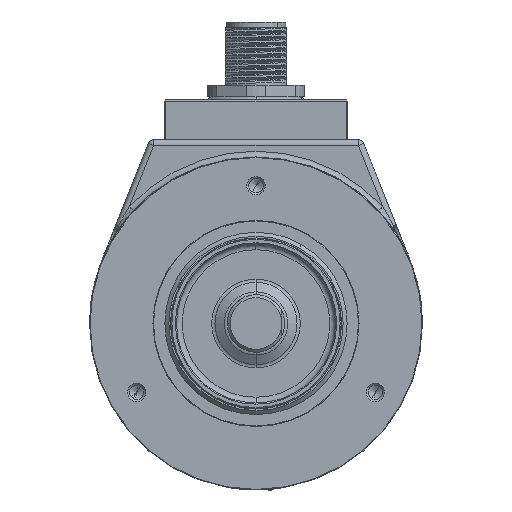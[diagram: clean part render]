
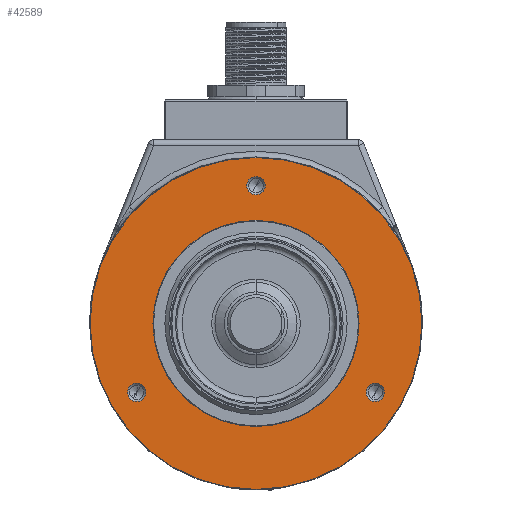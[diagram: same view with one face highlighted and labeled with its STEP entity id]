
A CAD part, front view. The second image highlights one B-rep face of the part: STEP entity #42589.
In plain terms, the highlighted planar face has unit normal (0, -1, 0).
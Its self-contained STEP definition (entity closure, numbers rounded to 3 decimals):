
#141 = ORIENTED_EDGE ( 'NONE', *, *, #28396, .F. ) ;
#307 = DIRECTION ( 'NONE',  ( -0.5, 0., -0.866 ) ) ;
#583 = DIRECTION ( 'NONE',  ( -0.5, 0., -0.866 ) ) ;
#789 = PLANE ( 'NONE',  #1021 ) ;
#918 = AXIS2_PLACEMENT_3D ( 'NONE', #1531, #1740, #15001 ) ;
#949 = DIRECTION ( 'NONE',  ( 0.5, 0., 0.866 ) ) ;
#965 = AXIS2_PLACEMENT_3D ( 'NONE', #33311, #30050, #307 ) ;
#996 = FACE_BOUND ( 'NONE', #19170, .T. ) ;
#1021 = AXIS2_PLACEMENT_3D ( 'NONE', #30975, #30103, #583 ) ;
#1239 = VERTEX_POINT ( 'NONE', #36034 ) ;
#1527 = CARTESIAN_POINT ( 'NONE',  ( -20.785, -7.5, -12. ) ) ;
#1531 = CARTESIAN_POINT ( 'NONE',  ( 0., -7.5, 24. ) ) ;
#1534 = CARTESIAN_POINT ( 'NONE',  ( -19.985, -7.5, -10.614 ) ) ;
#1680 = VERTEX_POINT ( 'NONE', #38712 ) ;
#1740 = DIRECTION ( 'NONE',  ( 0., -1., 0. ) ) ;
#1829 = VERTEX_POINT ( 'NONE', #7617 ) ;
#2530 = ORIENTED_EDGE ( 'NONE', *, *, #38596, .F. ) ;
#4392 = CIRCLE ( 'NONE', #918, 1.6 ) ;
#4460 = EDGE_CURVE ( 'NONE', #41453, #1680, #5181, .T. ) ;
#4624 = CIRCLE ( 'NONE', #31683, 1.6 ) ;
#4657 = AXIS2_PLACEMENT_3D ( 'NONE', #20765, #27054, #14684 ) ;
#4748 = DIRECTION ( 'NONE',  ( -0.5, 0., -0.866 ) ) ;
#4927 = CIRCLE ( 'NONE', #13221, 28.9 ) ;
#4944 = DIRECTION ( 'NONE',  ( 0., 1., 0. ) ) ;
#5181 = CIRCLE ( 'NONE', #23931, 17.7 ) ;
#5189 = EDGE_LOOP ( 'NONE', ( #2530, #141 ) ) ;
#5268 = AXIS2_PLACEMENT_3D ( 'NONE', #33254, #36084, #39153 ) ;
#5997 = CIRCLE ( 'NONE', #5268, 1.6 ) ;
#6771 = DIRECTION ( 'NONE',  ( 0., -1., 0. ) ) ;
#6952 = ORIENTED_EDGE ( 'NONE', *, *, #32312, .T. ) ;
#7197 = EDGE_CURVE ( 'NONE', #25029, #22454, #21993, .T. ) ;
#7617 = CARTESIAN_POINT ( 'NONE',  ( 19.985, -7.5, -13.386 ) ) ;
#8525 = EDGE_LOOP ( 'NONE', ( #40664, #34423 ) ) ;
#8593 = CIRCLE ( 'NONE', #965, 28.9 ) ;
#9779 = CARTESIAN_POINT ( 'NONE',  ( -20.785, -7.5, -12. ) ) ;
#9995 = DIRECTION ( 'NONE',  ( 0., -1., 0. ) ) ;
#10525 = FACE_BOUND ( 'NONE', #5189, .T. ) ;
#10692 = CARTESIAN_POINT ( 'NONE',  ( 0., -7.5, 24. ) ) ;
#11030 = VERTEX_POINT ( 'NONE', #1534 ) ;
#11342 = VERTEX_POINT ( 'NONE', #30163 ) ;
#11391 = EDGE_LOOP ( 'NONE', ( #34575, #38911 ) ) ;
#11642 = CIRCLE ( 'NONE', #22118, 17.7 ) ;
#13221 = AXIS2_PLACEMENT_3D ( 'NONE', #29583, #9995, #16723 ) ;
#13421 = CARTESIAN_POINT ( 'NONE',  ( 0., -7.5, 0. ) ) ;
#14684 = DIRECTION ( 'NONE',  ( 0.5, 0., 0.866 ) ) ;
#15001 = DIRECTION ( 'NONE',  ( 0.5, 0., 0.866 ) ) ;
#16690 = ORIENTED_EDGE ( 'NONE', *, *, #41981, .T. ) ;
#16723 = DIRECTION ( 'NONE',  ( -0.5, 0., -0.866 ) ) ;
#18569 = EDGE_CURVE ( 'NONE', #19053, #1829, #5997, .T. ) ;
#19053 = VERTEX_POINT ( 'NONE', #21832 ) ;
#19170 = EDGE_LOOP ( 'NONE', ( #6952, #41713 ) ) ;
#19649 = ORIENTED_EDGE ( 'NONE', *, *, #26003, .T. ) ;
#20765 = CARTESIAN_POINT ( 'NONE',  ( 20.785, -7.5, -12. ) ) ;
#21832 = CARTESIAN_POINT ( 'NONE',  ( 21.585, -7.5, -10.614 ) ) ;
#21993 = CIRCLE ( 'NONE', #31021, 1.6 ) ;
#22118 = AXIS2_PLACEMENT_3D ( 'NONE', #34695, #4944, #4748 ) ;
#22454 = VERTEX_POINT ( 'NONE', #26284 ) ;
#23086 = DIRECTION ( 'NONE',  ( 0.5, 0., 0.866 ) ) ;
#23482 = DIRECTION ( 'NONE',  ( -0.5, 0., -0.866 ) ) ;
#23703 = EDGE_LOOP ( 'NONE', ( #16690, #19649 ) ) ;
#23773 = DIRECTION ( 'NONE',  ( 0.5, 0., 0.866 ) ) ;
#23931 = AXIS2_PLACEMENT_3D ( 'NONE', #13421, #39980, #23482 ) ;
#24011 = DIRECTION ( 'NONE',  ( 0., -1., 0. ) ) ;
#24333 = EDGE_CURVE ( 'NONE', #1829, #19053, #40779, .T. ) ;
#24948 = CARTESIAN_POINT ( 'NONE',  ( 8.85, -7.5, 15.329 ) ) ;
#25029 = VERTEX_POINT ( 'NONE', #39335 ) ;
#26003 = EDGE_CURVE ( 'NONE', #1239, #39429, #4927, .T. ) ;
#26284 = CARTESIAN_POINT ( 'NONE',  ( -0.8, -7.5, 22.614 ) ) ;
#26840 = FACE_BOUND ( 'NONE', #8525, .T. ) ;
#27054 = DIRECTION ( 'NONE',  ( 0., -1., 0. ) ) ;
#27432 = EDGE_CURVE ( 'NONE', #22454, #25029, #4392, .T. ) ;
#27687 = FACE_BOUND ( 'NONE', #11391, .T. ) ;
#28396 = EDGE_CURVE ( 'NONE', #11342, #11030, #35002, .T. ) ;
#28772 = CARTESIAN_POINT ( 'NONE',  ( -14.45, -7.5, -25.028 ) ) ;
#29583 = CARTESIAN_POINT ( 'NONE',  ( 0., -7.5, 0. ) ) ;
#30050 = DIRECTION ( 'NONE',  ( 0., -1., 0. ) ) ;
#30103 = DIRECTION ( 'NONE',  ( 0., 1., 0. ) ) ;
#30163 = CARTESIAN_POINT ( 'NONE',  ( -21.585, -7.5, -13.386 ) ) ;
#30312 = FACE_OUTER_BOUND ( 'NONE', #23703, .T. ) ;
#30975 = CARTESIAN_POINT ( 'NONE',  ( -25.115, -7.5, 14.5 ) ) ;
#31021 = AXIS2_PLACEMENT_3D ( 'NONE', #10692, #24011, #949 ) ;
#31683 = AXIS2_PLACEMENT_3D ( 'NONE', #1527, #36997, #23773 ) ;
#32312 = EDGE_CURVE ( 'NONE', #1680, #41453, #11642, .T. ) ;
#33254 = CARTESIAN_POINT ( 'NONE',  ( 20.785, -7.5, -12. ) ) ;
#33311 = CARTESIAN_POINT ( 'NONE',  ( 0., -7.5, 0. ) ) ;
#33614 = AXIS2_PLACEMENT_3D ( 'NONE', #9779, #6771, #23086 ) ;
#34423 = ORIENTED_EDGE ( 'NONE', *, *, #27432, .F. ) ;
#34575 = ORIENTED_EDGE ( 'NONE', *, *, #18569, .F. ) ;
#34695 = CARTESIAN_POINT ( 'NONE',  ( 0., -7.5, 0. ) ) ;
#35002 = CIRCLE ( 'NONE', #33614, 1.6 ) ;
#36034 = CARTESIAN_POINT ( 'NONE',  ( 14.45, -7.5, 25.028 ) ) ;
#36084 = DIRECTION ( 'NONE',  ( 0., -1., 0. ) ) ;
#36997 = DIRECTION ( 'NONE',  ( 0., -1., 0. ) ) ;
#38596 = EDGE_CURVE ( 'NONE', #11030, #11342, #4624, .T. ) ;
#38712 = CARTESIAN_POINT ( 'NONE',  ( -8.85, -7.5, -15.329 ) ) ;
#38911 = ORIENTED_EDGE ( 'NONE', *, *, #24333, .F. ) ;
#39153 = DIRECTION ( 'NONE',  ( 0.5, 0., 0.866 ) ) ;
#39335 = CARTESIAN_POINT ( 'NONE',  ( 0.8, -7.5, 25.386 ) ) ;
#39429 = VERTEX_POINT ( 'NONE', #28772 ) ;
#39980 = DIRECTION ( 'NONE',  ( 0., 1., 0. ) ) ;
#40664 = ORIENTED_EDGE ( 'NONE', *, *, #7197, .F. ) ;
#40779 = CIRCLE ( 'NONE', #4657, 1.6 ) ;
#41453 = VERTEX_POINT ( 'NONE', #24948 ) ;
#41713 = ORIENTED_EDGE ( 'NONE', *, *, #4460, .T. ) ;
#41981 = EDGE_CURVE ( 'NONE', #39429, #1239, #8593, .T. ) ;
#42589 = ADVANCED_FACE ( 'NONE', ( #26840, #27687, #10525, #30312, #996 ), #789, .F. ) ;
